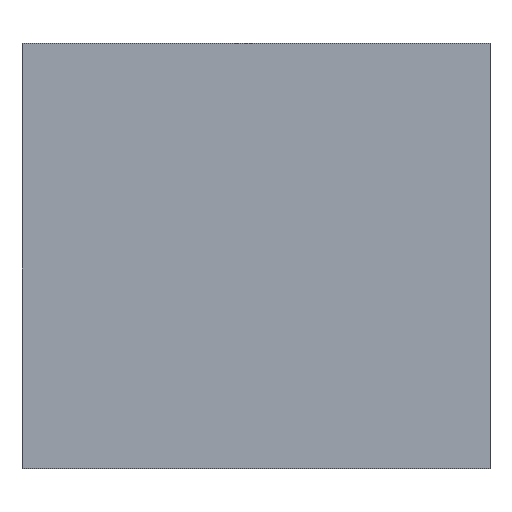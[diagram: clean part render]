
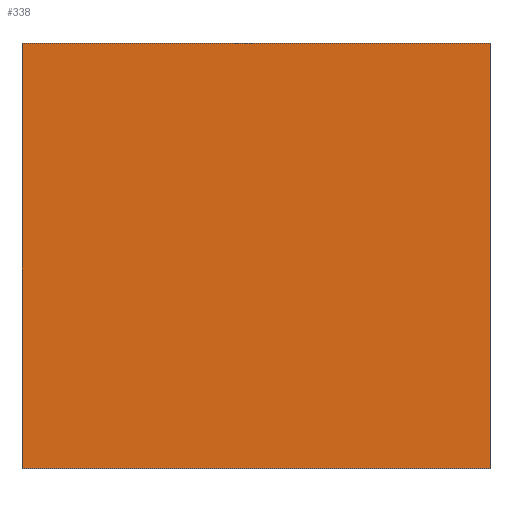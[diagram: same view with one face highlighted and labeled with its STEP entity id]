
A CAD part, top view. The second image highlights one B-rep face of the part: STEP entity #338.
In plain terms, the highlighted planar face has unit normal (0, 0, 1).
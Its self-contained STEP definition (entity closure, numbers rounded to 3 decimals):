
#24 = VERTEX_POINT('',#25);
#25 = CARTESIAN_POINT('',(87.,-79.,12.));
#32 = PLANE('',#33);
#33 = AXIS2_PLACEMENT_3D('',#34,#35,#36);
#34 = CARTESIAN_POINT('',(87.,-79.,0.));
#35 = DIRECTION('',(-0.,1.,-0.));
#36 = DIRECTION('',(1.,0.,0.));
#44 = PLANE('',#45);
#45 = AXIS2_PLACEMENT_3D('',#46,#47,#48);
#46 = CARTESIAN_POINT('',(87.,79.,0.));
#47 = DIRECTION('',(-1.,-0.,-0.));
#48 = DIRECTION('',(0.,1.,0.));
#56 = EDGE_CURVE('',#24,#57,#59,.T.);
#57 = VERTEX_POINT('',#58);
#58 = CARTESIAN_POINT('',(-87.,-79.,12.));
#59 = SURFACE_CURVE('',#60,(#64,#71),.PCURVE_S1.);
#60 = LINE('',#61,#62);
#61 = CARTESIAN_POINT('',(87.,-79.,12.));
#62 = VECTOR('',#63,1.);
#63 = DIRECTION('',(-1.,-0.,-0.));
#64 = PCURVE('',#32,#65);
#65 = DEFINITIONAL_REPRESENTATION('',(#66),#70);
#66 = LINE('',#67,#68);
#67 = CARTESIAN_POINT('',(-0.,-12.));
#68 = VECTOR('',#69,1.);
#69 = DIRECTION('',(-1.,0.));
#70 = ( GEOMETRIC_REPRESENTATION_CONTEXT(2) 
PARAMETRIC_REPRESENTATION_CONTEXT() REPRESENTATION_CONTEXT('2D SPACE',''
  ) );
#71 = PCURVE('',#72,#77);
#72 = PLANE('',#73);
#73 = AXIS2_PLACEMENT_3D('',#74,#75,#76);
#74 = CARTESIAN_POINT('',(0.,0.,12.));
#75 = DIRECTION('',(-0.,-0.,1.));
#76 = DIRECTION('',(1.,0.,0.));
#77 = DEFINITIONAL_REPRESENTATION('',(#78),#82);
#78 = LINE('',#79,#80);
#79 = CARTESIAN_POINT('',(87.,-79.));
#80 = VECTOR('',#81,1.);
#81 = DIRECTION('',(-1.,0.));
#82 = ( GEOMETRIC_REPRESENTATION_CONTEXT(2) 
PARAMETRIC_REPRESENTATION_CONTEXT() REPRESENTATION_CONTEXT('2D SPACE',''
  ) );
#100 = PLANE('',#101);
#101 = AXIS2_PLACEMENT_3D('',#102,#103,#104);
#102 = CARTESIAN_POINT('',(-87.,-79.,0.));
#103 = DIRECTION('',(1.,-0.,-0.));
#104 = DIRECTION('',(0.,-1.,0.));
#142 = EDGE_CURVE('',#57,#143,#145,.T.);
#143 = VERTEX_POINT('',#144);
#144 = CARTESIAN_POINT('',(-87.,79.,12.));
#145 = SURFACE_CURVE('',#146,(#150,#157),.PCURVE_S1.);
#146 = LINE('',#147,#148);
#147 = CARTESIAN_POINT('',(-87.,-79.,12.));
#148 = VECTOR('',#149,1.);
#149 = DIRECTION('',(-0.,1.,-0.));
#150 = PCURVE('',#100,#151);
#151 = DEFINITIONAL_REPRESENTATION('',(#152),#156);
#152 = LINE('',#153,#154);
#153 = CARTESIAN_POINT('',(-0.,-12.));
#154 = VECTOR('',#155,1.);
#155 = DIRECTION('',(-1.,0.));
#156 = ( GEOMETRIC_REPRESENTATION_CONTEXT(2) 
PARAMETRIC_REPRESENTATION_CONTEXT() REPRESENTATION_CONTEXT('2D SPACE',''
  ) );
#157 = PCURVE('',#72,#158);
#158 = DEFINITIONAL_REPRESENTATION('',(#159),#163);
#159 = LINE('',#160,#161);
#160 = CARTESIAN_POINT('',(-87.,-79.));
#161 = VECTOR('',#162,1.);
#162 = DIRECTION('',(-0.,1.));
#163 = ( GEOMETRIC_REPRESENTATION_CONTEXT(2) 
PARAMETRIC_REPRESENTATION_CONTEXT() REPRESENTATION_CONTEXT('2D SPACE',''
  ) );
#181 = PLANE('',#182);
#182 = AXIS2_PLACEMENT_3D('',#183,#184,#185);
#183 = CARTESIAN_POINT('',(-87.,79.,0.));
#184 = DIRECTION('',(-0.,-1.,-0.));
#185 = DIRECTION('',(-1.,0.,0.));
#218 = EDGE_CURVE('',#143,#219,#221,.T.);
#219 = VERTEX_POINT('',#220);
#220 = CARTESIAN_POINT('',(87.,79.,12.));
#221 = SURFACE_CURVE('',#222,(#226,#233),.PCURVE_S1.);
#222 = LINE('',#223,#224);
#223 = CARTESIAN_POINT('',(-87.,79.,12.));
#224 = VECTOR('',#225,1.);
#225 = DIRECTION('',(1.,-0.,-0.));
#226 = PCURVE('',#181,#227);
#227 = DEFINITIONAL_REPRESENTATION('',(#228),#232);
#228 = LINE('',#229,#230);
#229 = CARTESIAN_POINT('',(-0.,-12.));
#230 = VECTOR('',#231,1.);
#231 = DIRECTION('',(-1.,0.));
#232 = ( GEOMETRIC_REPRESENTATION_CONTEXT(2) 
PARAMETRIC_REPRESENTATION_CONTEXT() REPRESENTATION_CONTEXT('2D SPACE',''
  ) );
#233 = PCURVE('',#72,#234);
#234 = DEFINITIONAL_REPRESENTATION('',(#235),#239);
#235 = LINE('',#236,#237);
#236 = CARTESIAN_POINT('',(-87.,79.));
#237 = VECTOR('',#238,1.);
#238 = DIRECTION('',(1.,-0.));
#239 = ( GEOMETRIC_REPRESENTATION_CONTEXT(2) 
PARAMETRIC_REPRESENTATION_CONTEXT() REPRESENTATION_CONTEXT('2D SPACE',''
  ) );
#289 = EDGE_CURVE('',#219,#24,#290,.T.);
#290 = SURFACE_CURVE('',#291,(#295,#302),.PCURVE_S1.);
#291 = LINE('',#292,#293);
#292 = CARTESIAN_POINT('',(87.,79.,12.));
#293 = VECTOR('',#294,1.);
#294 = DIRECTION('',(-0.,-1.,-0.));
#295 = PCURVE('',#44,#296);
#296 = DEFINITIONAL_REPRESENTATION('',(#297),#301);
#297 = LINE('',#298,#299);
#298 = CARTESIAN_POINT('',(-0.,-12.));
#299 = VECTOR('',#300,1.);
#300 = DIRECTION('',(-1.,0.));
#301 = ( GEOMETRIC_REPRESENTATION_CONTEXT(2) 
PARAMETRIC_REPRESENTATION_CONTEXT() REPRESENTATION_CONTEXT('2D SPACE',''
  ) );
#302 = PCURVE('',#72,#303);
#303 = DEFINITIONAL_REPRESENTATION('',(#304),#308);
#304 = LINE('',#305,#306);
#305 = CARTESIAN_POINT('',(87.,79.));
#306 = VECTOR('',#307,1.);
#307 = DIRECTION('',(-0.,-1.));
#308 = ( GEOMETRIC_REPRESENTATION_CONTEXT(2) 
PARAMETRIC_REPRESENTATION_CONTEXT() REPRESENTATION_CONTEXT('2D SPACE',''
  ) );
#338 = ADVANCED_FACE('',(#339),#72,.T.);
#339 = FACE_BOUND('',#340,.F.);
#340 = EDGE_LOOP('',(#341,#342,#343,#344));
#341 = ORIENTED_EDGE('',*,*,#56,.T.);
#342 = ORIENTED_EDGE('',*,*,#142,.T.);
#343 = ORIENTED_EDGE('',*,*,#218,.T.);
#344 = ORIENTED_EDGE('',*,*,#289,.T.);
